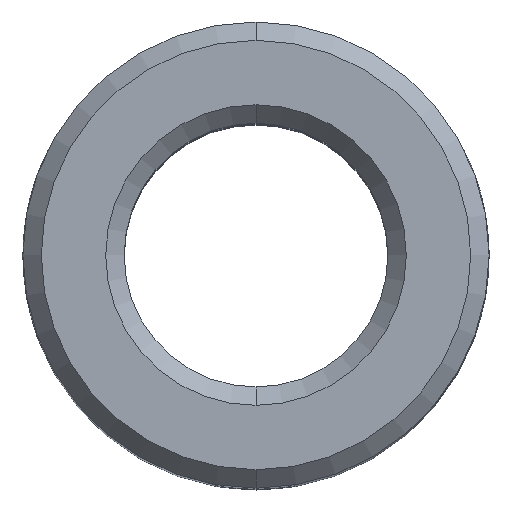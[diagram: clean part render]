
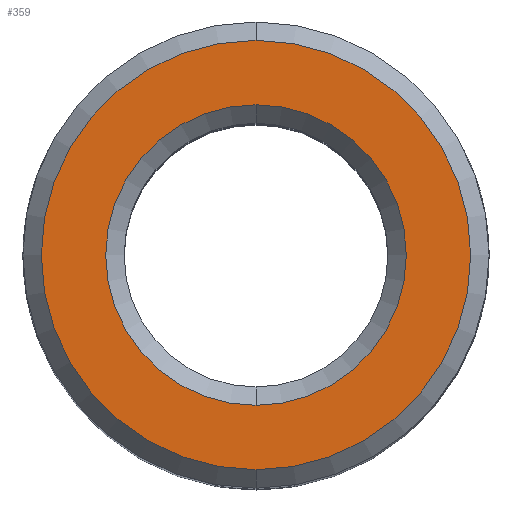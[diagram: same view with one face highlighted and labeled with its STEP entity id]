
A CAD part, top view. The second image highlights one B-rep face of the part: STEP entity #359.
In plain terms, the highlighted planar face has unit normal (0, 0, 1).
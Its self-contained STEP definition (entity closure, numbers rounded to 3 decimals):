
#14 = EDGE_CURVE ( 'NONE', #1214, #1271, #1105, .T. ) ;
#31 = VERTEX_POINT ( 'NONE', #308 ) ;
#100 = CARTESIAN_POINT ( 'NONE',  ( 0., 0., 0. ) ) ;
#110 = CARTESIAN_POINT ( 'NONE',  ( 0., 0., 0. ) ) ;
#111 = CARTESIAN_POINT ( 'NONE',  ( 0., 0., 0. ) ) ;
#119 = DIRECTION ( 'NONE',  ( 0., 0., 1. ) ) ;
#120 = EDGE_CURVE ( 'NONE', #805, #31, #854, .T. ) ;
#123 = DIRECTION ( 'NONE',  ( 0., 1., 0. ) ) ;
#130 = CIRCLE ( 'NONE', #1426, 24.5 ) ;
#174 = EDGE_LOOP ( 'NONE', ( #1445, #895 ) ) ;
#204 = CIRCLE ( 'NONE', #1320, 35. ) ;
#274 = DIRECTION ( 'NONE',  ( 0., 1., 0. ) ) ;
#308 = CARTESIAN_POINT ( 'NONE',  ( 0., 35., 0. ) ) ;
#359 = ADVANCED_FACE ( 'NONE', ( #837, #1196 ), #838, .F. ) ;
#403 = AXIS2_PLACEMENT_3D ( 'NONE', #828, #831, #587 ) ;
#439 = CARTESIAN_POINT ( 'NONE',  ( 0., 0., 0. ) ) ;
#454 = DIRECTION ( 'NONE',  ( 0., 0., -1. ) ) ;
#536 = DIRECTION ( 'NONE',  ( 0., 1., 0. ) ) ;
#587 = DIRECTION ( 'NONE',  ( 0., 1., 0. ) ) ;
#752 = EDGE_LOOP ( 'NONE', ( #1337, #755 ) ) ;
#755 = ORIENTED_EDGE ( 'NONE', *, *, #14, .T. ) ;
#805 = VERTEX_POINT ( 'NONE', #1109 ) ;
#828 = CARTESIAN_POINT ( 'NONE',  ( 0., 21.5, 0. ) ) ;
#831 = DIRECTION ( 'NONE',  ( 0., 0., -1. ) ) ;
#837 = FACE_BOUND ( 'NONE', #752, .T. ) ;
#838 = PLANE ( 'NONE',  #403 ) ;
#854 = CIRCLE ( 'NONE', #1086, 35. ) ;
#868 = DIRECTION ( 'NONE',  ( 0., 1., 0. ) ) ;
#870 = CARTESIAN_POINT ( 'NONE',  ( 0., 24.5, 0. ) ) ;
#874 = DIRECTION ( 'NONE',  ( 0., 0., 1. ) ) ;
#895 = ORIENTED_EDGE ( 'NONE', *, *, #120, .T. ) ;
#969 = AXIS2_PLACEMENT_3D ( 'NONE', #111, #987, #274 ) ;
#987 = DIRECTION ( 'NONE',  ( 0., 0., -1. ) ) ;
#1037 = EDGE_CURVE ( 'NONE', #31, #805, #204, .T. ) ;
#1072 = EDGE_CURVE ( 'NONE', #1271, #1214, #130, .T. ) ;
#1086 = AXIS2_PLACEMENT_3D ( 'NONE', #100, #874, #868 ) ;
#1105 = CIRCLE ( 'NONE', #969, 24.5 ) ;
#1109 = CARTESIAN_POINT ( 'NONE',  ( 0., -35., 0. ) ) ;
#1196 = FACE_OUTER_BOUND ( 'NONE', #174, .T. ) ;
#1214 = VERTEX_POINT ( 'NONE', #870 ) ;
#1271 = VERTEX_POINT ( 'NONE', #1360 ) ;
#1320 = AXIS2_PLACEMENT_3D ( 'NONE', #110, #119, #123 ) ;
#1337 = ORIENTED_EDGE ( 'NONE', *, *, #1072, .T. ) ;
#1360 = CARTESIAN_POINT ( 'NONE',  ( 0., -24.5, 0. ) ) ;
#1426 = AXIS2_PLACEMENT_3D ( 'NONE', #439, #454, #536 ) ;
#1445 = ORIENTED_EDGE ( 'NONE', *, *, #1037, .T. ) ;
